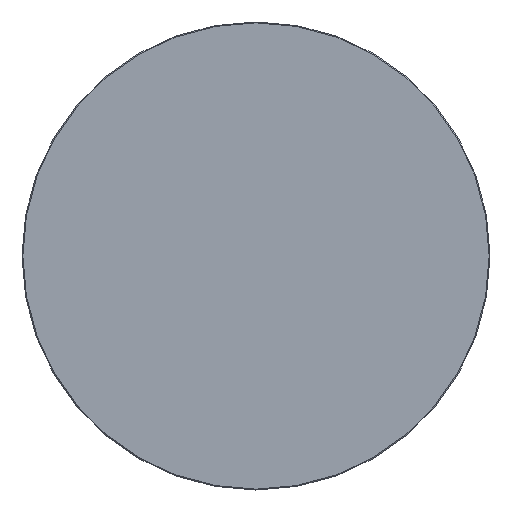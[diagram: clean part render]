
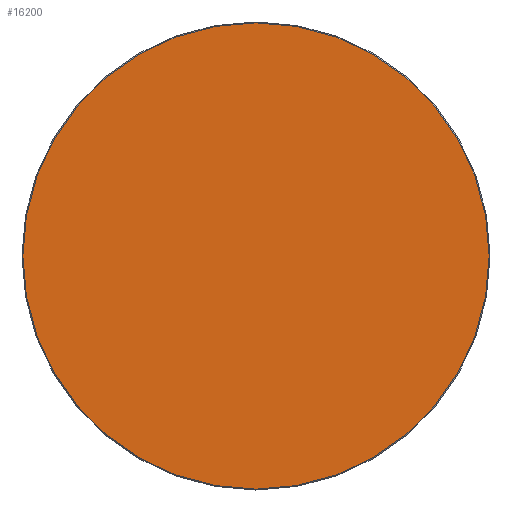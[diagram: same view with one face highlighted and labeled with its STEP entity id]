
A CAD part, top view. The second image highlights one B-rep face of the part: STEP entity #16200.
In plain terms, the highlighted planar face has unit normal (0, 0, 1).
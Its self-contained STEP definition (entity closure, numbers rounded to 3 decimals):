
#16125=CARTESIAN_POINT('',(0.,0.,20.));
#16126=DIRECTION('',(1.,0.,0.));
#16127=DIRECTION('',(0.,0.,1.));
#16128=AXIS2_PLACEMENT_3D('',#16125,#16127,#16126);
#16129=PLANE('',#16128);
#16130=CARTESIAN_POINT('',(-0.5,-398.5,20.));
#16131=VERTEX_POINT('',#16130);
#16132=CARTESIAN_POINT('',(0.5,-398.5,20.));
#16133=VERTEX_POINT('',#16132);
#16134=CARTESIAN_POINT('',(-0.5,-398.5,20.));
#16135=DIRECTION('',(1.,0.,0.));
#16136=VECTOR('',#16135,1.);
#16137=LINE('',#16134,#16136);
#16138=EDGE_CURVE('',#16131,#16133,#16137,.T.);
#16139=ORIENTED_EDGE('E105',*,*,#16138,.T.);
#16140=CARTESIAN_POINT('',(398.5,-0.5,20.));
#16141=VERTEX_POINT('',#16140);
#16142=CARTESIAN_POINT('',(0.5,-0.5,20.));
#16143=DIRECTION('',(0.,-1.,0.));
#16144=DIRECTION('',(0.,0.,1.));
#16145=AXIS2_PLACEMENT_3D('',#16142,#16144,#16143);
#16146=CIRCLE('',#16145,398.);
#16147=EDGE_CURVE('',#16133,#16141,#16146,.T.);
#16148=ORIENTED_EDGE('E107',*,*,#16147,.T.);
#16149=CARTESIAN_POINT('',(398.5,0.5,20.));
#16150=VERTEX_POINT('',#16149);
#16151=CARTESIAN_POINT('',(398.5,-0.5,20.));
#16152=DIRECTION('',(0.,1.,0.));
#16153=VECTOR('',#16152,1.);
#16154=LINE('',#16151,#16153);
#16155=EDGE_CURVE('',#16141,#16150,#16154,.T.);
#16156=ORIENTED_EDGE('E109',*,*,#16155,.T.);
#16157=CARTESIAN_POINT('',(0.5,398.5,20.));
#16158=VERTEX_POINT('',#16157);
#16159=CARTESIAN_POINT('',(0.5,0.5,20.));
#16160=DIRECTION('',(1.,0.,0.));
#16161=DIRECTION('',(0.,0.,1.));
#16162=AXIS2_PLACEMENT_3D('',#16159,#16161,#16160);
#16163=CIRCLE('',#16162,398.);
#16164=EDGE_CURVE('',#16150,#16158,#16163,.T.);
#16165=ORIENTED_EDGE('E111',*,*,#16164,.T.);
#16166=CARTESIAN_POINT('',(-0.5,398.5,20.));
#16167=VERTEX_POINT('',#16166);
#16168=CARTESIAN_POINT('',(0.5,398.5,20.));
#16169=DIRECTION('',(-1.,0.,0.));
#16170=VECTOR('',#16169,1.);
#16171=LINE('',#16168,#16170);
#16172=EDGE_CURVE('',#16158,#16167,#16171,.T.);
#16173=ORIENTED_EDGE('E113',*,*,#16172,.T.);
#16174=CARTESIAN_POINT('',(-398.5,0.5,20.));
#16175=VERTEX_POINT('',#16174);
#16176=CARTESIAN_POINT('',(-0.5,0.5,20.));
#16177=DIRECTION('',(0.,1.,0.));
#16178=DIRECTION('',(0.,0.,1.));
#16179=AXIS2_PLACEMENT_3D('',#16176,#16178,#16177);
#16180=CIRCLE('',#16179,398.);
#16181=EDGE_CURVE('',#16167,#16175,#16180,.T.);
#16182=ORIENTED_EDGE('E115',*,*,#16181,.T.);
#16183=CARTESIAN_POINT('',(-398.5,-0.5,20.));
#16184=VERTEX_POINT('',#16183);
#16185=CARTESIAN_POINT('',(-398.5,0.5,20.));
#16186=DIRECTION('',(0.,-1.,0.));
#16187=VECTOR('',#16186,1.);
#16188=LINE('',#16185,#16187);
#16189=EDGE_CURVE('',#16175,#16184,#16188,.T.);
#16190=ORIENTED_EDGE('E117',*,*,#16189,.T.);
#16191=CARTESIAN_POINT('',(-0.5,-0.5,20.));
#16192=DIRECTION('',(-1.,0.,0.));
#16193=DIRECTION('',(-0.,0.,1.));
#16194=AXIS2_PLACEMENT_3D('',#16191,#16193,#16192);
#16195=CIRCLE('',#16194,398.);
#16196=EDGE_CURVE('',#16184,#16131,#16195,.T.);
#16197=ORIENTED_EDGE('E119',*,*,#16196,.T.);
#16198=EDGE_LOOP('',(#16139,#16148,#16156,#16165,#16173,#16182,#16190,#16197));
#16199=FACE_OUTER_BOUND('',#16198,.T.);
#16200=ADVANCED_FACE('F2',(#16199),#16129,.T.);
